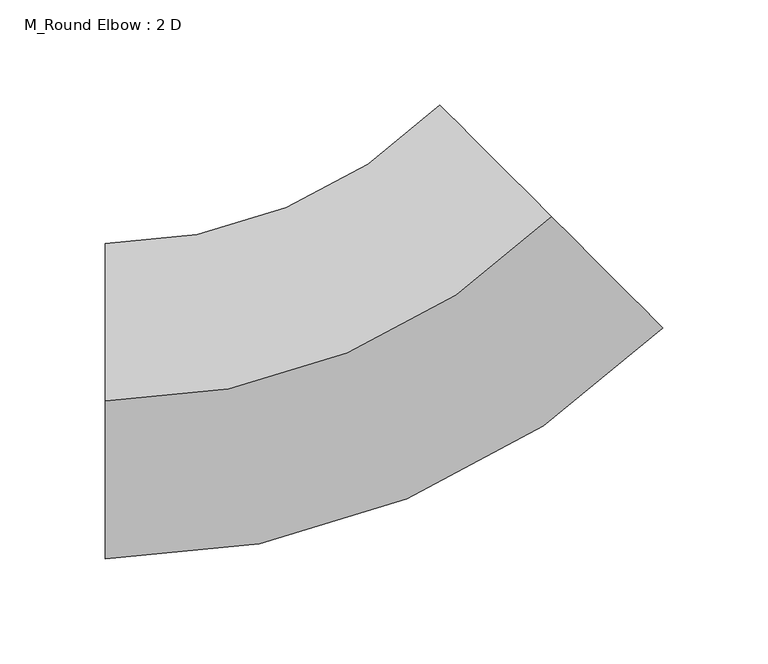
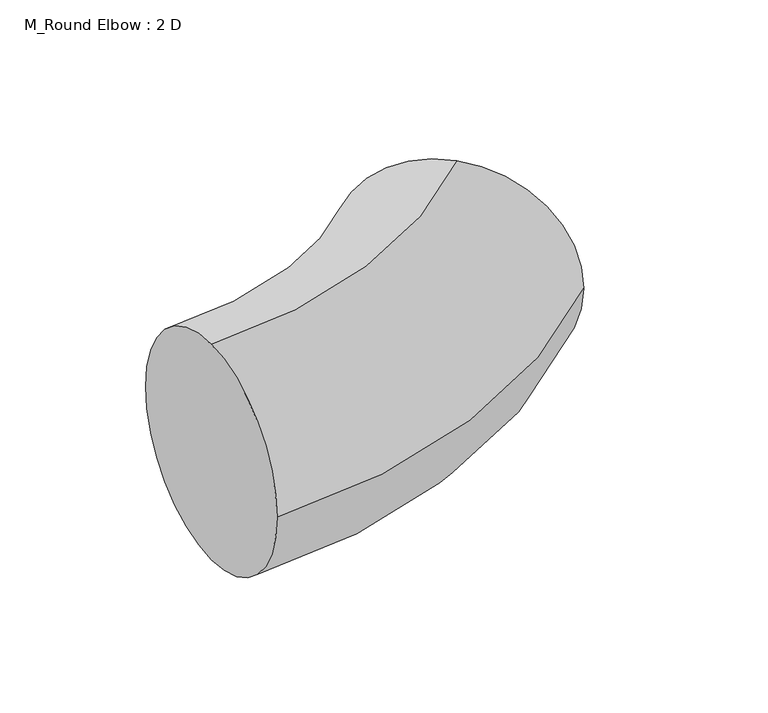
"""IFC4 building model written with IfcOpenShell, lengths in millimetres: duct fitting geometry, M_Round Elbow : 2 D."""

from ifc_helpers import new_model, si_unit, point, frame, origin, place, context, project, spatial, circle_curve, ellipse_curve, trimmed, source, transform, mapped, element, save
from ifc_brep_helpers import plane_surface, revolved_surface, advanced_brep


def m_round_elbow_2_d_8afeaf1c(model_context):
    return source(origin(), model_context, "Body", "AdvancedBrep", [
        advanced_brep(
        [(-124.2640687, 0.0, 75.0), (-124.2640687, 75.0, 0.0), (-124.2640687, 0.0, -75.0), (-124.2640687, -75.0, 0.0), (87.8679656, 87.8679656, 75.0), (140.9009742, 34.8349571, 0.0), (87.8679656, 87.8679656, -75.0), (34.8349571, 140.9009742, 0.0)],
        [
            (0, 1, circle_curve(frame((-124.2640687, 0.0, 0.0), z_axis=(-1.0, 0.0, 0.0), x_axis=(0.0, 1.0, 0.0)), 75.0)),
            (1, 2, circle_curve(frame((-124.2640687, 0.0, 0.0), z_axis=(-1.0, 0.0, 0.0), x_axis=(0.0, 1.0, 0.0)), 75.0)),
            (2, 3, circle_curve(frame((-124.2640687, 0.0, 0.0), z_axis=(-1.0, 0.0, 0.0), x_axis=(0.0, 1.0, 0.0)), 75.0)),
            (3, 0, circle_curve(frame((-124.2640687, 0.0, 0.0), z_axis=(-1.0, 0.0, 0.0), x_axis=(0.0, 1.0, 0.0)), 75.0)),
            (4, 5, circle_curve(frame((87.8679656, 87.8679656, 0.0), z_axis=(0.707106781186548, 0.707106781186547, 0.0), x_axis=(-0.707106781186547, 0.707106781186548, 0.0)), 75.0)),
            (5, 6, circle_curve(frame((87.8679656, 87.8679656, 0.0), z_axis=(0.707106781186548, 0.707106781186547, 0.0), x_axis=(-0.707106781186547, 0.707106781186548, 0.0)), 75.0)),
            (6, 7, circle_curve(frame((87.8679656, 87.8679656, 0.0), z_axis=(0.707106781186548, 0.707106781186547, 0.0), x_axis=(-0.707106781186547, 0.707106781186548, 0.0)), 75.0)),
            (7, 4, circle_curve(frame((87.8679656, 87.8679656, 0.0), z_axis=(0.707106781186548, 0.707106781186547, 0.0), x_axis=(-0.707106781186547, 0.707106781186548, 0.0)), 75.0)),
            (7, 1, circle_curve(frame((-124.2640687, 300.0, 0.0), z_axis=(0.0, 0.0, -1.0), x_axis=(0.0, -1.0, 0.0)), 225.0)),
            (0, 4, circle_curve(frame((-124.2640687, 300.0, 75.0), z_axis=(0.0, 0.0, 1.0), x_axis=(0.0, -1.0, 0.0)), 300.0)),
            (6, 2, circle_curve(frame((-124.2640687, 300.0, -75.0), z_axis=(0.0, 0.0, -1.0), x_axis=(0.0, -1.0, 0.0)), 300.0)),
            (5, 3, circle_curve(frame((-124.2640687, 300.0, 0.0), z_axis=(0.0, 0.0, -1.0), x_axis=(0.0, -1.0, 0.0)), 375.0)),
        ],
        [
            plane_surface(frame((-124.2640687, 0.0, 0.0), z_axis=(-1.0, 0.0, 0.0), x_axis=(0.0, 0.0, 1.0))),
            plane_surface(frame((87.8679656, 87.8679656, 0.0), z_axis=(0.707106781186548, 0.7071067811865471, 0.0), x_axis=(0.0, 0.0, 1.0))),
            revolved_surface(trimmed(ellipse_curve(frame((-124.2640687, 0.0, 0.0), z_axis=(-1.0, 0.0, 0.0), x_axis=(0.0, 1.0, 0.0)), 75.0, 75.0), [point((-124.2640687, 0.0, 75.0))], [point((-124.2640687, 75.0, 0.0))], True, "CARTESIAN"), (-124.2640687, 300.0, 0.0), (0.0, 0.0, 1.0)),
            revolved_surface(trimmed(ellipse_curve(frame((-124.2640687, 0.0, 0.0), z_axis=(-1.0, 0.0, 0.0), x_axis=(0.0, 1.0, 0.0)), 75.0, 75.0), [point((-124.2640687, 75.0, 0.0))], [point((-124.2640687, 0.0, -75.0))], True, "CARTESIAN"), (-124.2640687, 300.0, 0.0), (0.0, 0.0, 1.0)),
            revolved_surface(trimmed(ellipse_curve(frame((-124.2640687, 0.0, 0.0), z_axis=(-1.0, 0.0, 0.0), x_axis=(0.0, 1.0, 0.0)), 75.0, 75.0), [point((-124.2640687, 0.0, -75.0))], [point((-124.2640687, -75.0, 0.0))], True, "CARTESIAN"), (-124.2640687, 300.0, 0.0), (0.0, 0.0, 1.0)),
            revolved_surface(trimmed(ellipse_curve(frame((-124.2640687, 0.0, 0.0), z_axis=(-1.0, 0.0, 0.0), x_axis=(0.0, 1.0, 0.0)), 75.0, 75.0), [point((-124.2640687, -75.0, 0.0))], [point((-124.2640687, 0.0, 75.0))], True, "CARTESIAN"), (-124.2640687, 300.0, 0.0), (0.0, 0.0, 1.0)),
        ],
        [
            (0, [[1, 2, 3, 4]]),
            (1, [[5, 6, 7, 8]]),
            (2, [[9, -1, 10, -8]]),
            (3, [[11, -2, -9, -7]]),
            (4, [[12, -3, -11, -6]]),
            (5, [[-10, -4, -12, -5]]),
        ],
    ),
        advanced_brep(
        [(-124.2640687, 0.0, 75.0), (-124.2640687, 75.0, 0.0), (-124.2640687, 0.0, -75.0), (-124.2640687, -75.0, 0.0), (87.8679656, 87.8679656, 75.0), (140.9009742, 34.8349571, 0.0), (87.8679656, 87.8679656, -75.0), (34.8349571, 140.9009742, 0.0)],
        [
            (0, 1, circle_curve(frame((-124.2640687, 0.0, 0.0), z_axis=(-1.0, 0.0, 0.0), x_axis=(0.0, 1.0, 0.0)), 75.0)),
            (1, 2, circle_curve(frame((-124.2640687, 0.0, 0.0), z_axis=(-1.0, 0.0, 0.0), x_axis=(0.0, 1.0, 0.0)), 75.0)),
            (2, 3, circle_curve(frame((-124.2640687, 0.0, 0.0), z_axis=(-1.0, 0.0, 0.0), x_axis=(0.0, 1.0, 0.0)), 75.0)),
            (3, 0, circle_curve(frame((-124.2640687, 0.0, 0.0), z_axis=(-1.0, 0.0, 0.0), x_axis=(0.0, 1.0, 0.0)), 75.0)),
            (4, 5, circle_curve(frame((87.8679656, 87.8679656, 0.0), z_axis=(0.707106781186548, 0.707106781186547, 0.0), x_axis=(-0.707106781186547, 0.707106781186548, 0.0)), 75.0)),
            (5, 6, circle_curve(frame((87.8679656, 87.8679656, 0.0), z_axis=(0.707106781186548, 0.707106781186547, 0.0), x_axis=(-0.707106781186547, 0.707106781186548, 0.0)), 75.0)),
            (6, 7, circle_curve(frame((87.8679656, 87.8679656, 0.0), z_axis=(0.707106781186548, 0.707106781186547, 0.0), x_axis=(-0.707106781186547, 0.707106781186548, 0.0)), 75.0)),
            (7, 4, circle_curve(frame((87.8679656, 87.8679656, 0.0), z_axis=(0.707106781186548, 0.707106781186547, 0.0), x_axis=(-0.707106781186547, 0.707106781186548, 0.0)), 75.0)),
            (7, 1, circle_curve(frame((-124.2640687, 300.0, 0.0), z_axis=(0.0, 0.0, -1.0), x_axis=(0.0, -1.0, 0.0)), 225.0)),
            (0, 4, circle_curve(frame((-124.2640687, 300.0, 75.0), z_axis=(0.0, 0.0, 1.0), x_axis=(0.0, -1.0, 0.0)), 300.0)),
            (6, 2, circle_curve(frame((-124.2640687, 300.0, -75.0), z_axis=(0.0, 0.0, -1.0), x_axis=(0.0, -1.0, 0.0)), 300.0)),
            (5, 3, circle_curve(frame((-124.2640687, 300.0, 0.0), z_axis=(0.0, 0.0, -1.0), x_axis=(0.0, -1.0, 0.0)), 375.0)),
        ],
        [
            plane_surface(frame((-124.2640687, 0.0, 0.0), z_axis=(-1.0, 0.0, 0.0), x_axis=(0.0, 0.0, 1.0))),
            plane_surface(frame((87.8679656, 87.8679656, 0.0), z_axis=(0.707106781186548, 0.7071067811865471, 0.0), x_axis=(0.0, 0.0, 1.0))),
            revolved_surface(trimmed(ellipse_curve(frame((-124.2640687, 0.0, 0.0), z_axis=(-1.0, 0.0, 0.0), x_axis=(0.0, 1.0, 0.0)), 75.0, 75.0), [point((-124.2640687, 0.0, 75.0))], [point((-124.2640687, 75.0, 0.0))], True, "CARTESIAN"), (-124.2640687, 300.0, 0.0), (0.0, 0.0, 1.0)),
            revolved_surface(trimmed(ellipse_curve(frame((-124.2640687, 0.0, 0.0), z_axis=(-1.0, 0.0, 0.0), x_axis=(0.0, 1.0, 0.0)), 75.0, 75.0), [point((-124.2640687, 75.0, 0.0))], [point((-124.2640687, 0.0, -75.0))], True, "CARTESIAN"), (-124.2640687, 300.0, 0.0), (0.0, 0.0, 1.0)),
            revolved_surface(trimmed(ellipse_curve(frame((-124.2640687, 0.0, 0.0), z_axis=(-1.0, 0.0, 0.0), x_axis=(0.0, 1.0, 0.0)), 75.0, 75.0), [point((-124.2640687, 0.0, -75.0))], [point((-124.2640687, -75.0, 0.0))], True, "CARTESIAN"), (-124.2640687, 300.0, 0.0), (0.0, 0.0, 1.0)),
            revolved_surface(trimmed(ellipse_curve(frame((-124.2640687, 0.0, 0.0), z_axis=(-1.0, 0.0, 0.0), x_axis=(0.0, 1.0, 0.0)), 75.0, 75.0), [point((-124.2640687, -75.0, 0.0))], [point((-124.2640687, 0.0, 75.0))], True, "CARTESIAN"), (-124.2640687, 300.0, 0.0), (0.0, 0.0, 1.0)),
        ],
        [
            (0, [[1, 2, 3, 4]]),
            (1, [[5, 6, 7, 8]]),
            (2, [[9, -1, 10, -8]]),
            (3, [[11, -2, -9, -7]]),
            (4, [[12, -3, -11, -6]]),
            (5, [[-10, -4, -12, -5]]),
        ],
    ),
        advanced_brep(
        [(-124.2640687, 0.0, 75.0), (-124.2640687, 75.0, 0.0), (-124.2640687, 0.0, -75.0), (-124.2640687, -75.0, 0.0), (87.8679656, 87.8679656, 75.0), (140.9009742, 34.8349571, 0.0), (87.8679656, 87.8679656, -75.0), (34.8349571, 140.9009742, 0.0)],
        [
            (0, 1, circle_curve(frame((-124.2640687, 0.0, 0.0), z_axis=(-1.0, 0.0, 0.0), x_axis=(0.0, 1.0, 0.0)), 75.0)),
            (1, 2, circle_curve(frame((-124.2640687, 0.0, 0.0), z_axis=(-1.0, 0.0, 0.0), x_axis=(0.0, 1.0, 0.0)), 75.0)),
            (2, 3, circle_curve(frame((-124.2640687, 0.0, 0.0), z_axis=(-1.0, 0.0, 0.0), x_axis=(0.0, 1.0, 0.0)), 75.0)),
            (3, 0, circle_curve(frame((-124.2640687, 0.0, 0.0), z_axis=(-1.0, 0.0, 0.0), x_axis=(0.0, 1.0, 0.0)), 75.0)),
            (4, 5, circle_curve(frame((87.8679656, 87.8679656, 0.0), z_axis=(0.707106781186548, 0.707106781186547, 0.0), x_axis=(-0.707106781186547, 0.707106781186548, 0.0)), 75.0)),
            (5, 6, circle_curve(frame((87.8679656, 87.8679656, 0.0), z_axis=(0.707106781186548, 0.707106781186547, 0.0), x_axis=(-0.707106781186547, 0.707106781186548, 0.0)), 75.0)),
            (6, 7, circle_curve(frame((87.8679656, 87.8679656, 0.0), z_axis=(0.707106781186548, 0.707106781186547, 0.0), x_axis=(-0.707106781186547, 0.707106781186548, 0.0)), 75.0)),
            (7, 4, circle_curve(frame((87.8679656, 87.8679656, 0.0), z_axis=(0.707106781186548, 0.707106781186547, 0.0), x_axis=(-0.707106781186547, 0.707106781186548, 0.0)), 75.0)),
            (7, 1, circle_curve(frame((-124.2640687, 300.0, 0.0), z_axis=(0.0, 0.0, -1.0), x_axis=(0.0, -1.0, 0.0)), 225.0)),
            (0, 4, circle_curve(frame((-124.2640687, 300.0, 75.0), z_axis=(0.0, 0.0, 1.0), x_axis=(0.0, -1.0, 0.0)), 300.0)),
            (6, 2, circle_curve(frame((-124.2640687, 300.0, -75.0), z_axis=(0.0, 0.0, -1.0), x_axis=(0.0, -1.0, 0.0)), 300.0)),
            (5, 3, circle_curve(frame((-124.2640687, 300.0, 0.0), z_axis=(0.0, 0.0, -1.0), x_axis=(0.0, -1.0, 0.0)), 375.0)),
        ],
        [
            plane_surface(frame((-124.2640687, 0.0, 0.0), z_axis=(-1.0, 0.0, 0.0), x_axis=(0.0, 0.0, 1.0))),
            plane_surface(frame((87.8679656, 87.8679656, 0.0), z_axis=(0.707106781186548, 0.7071067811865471, 0.0), x_axis=(0.0, 0.0, 1.0))),
            revolved_surface(trimmed(ellipse_curve(frame((-124.2640687, 0.0, 0.0), z_axis=(-1.0, 0.0, 0.0), x_axis=(0.0, 1.0, 0.0)), 75.0, 75.0), [point((-124.2640687, 0.0, 75.0))], [point((-124.2640687, 75.0, 0.0))], True, "CARTESIAN"), (-124.2640687, 300.0, 0.0), (0.0, 0.0, 1.0)),
            revolved_surface(trimmed(ellipse_curve(frame((-124.2640687, 0.0, 0.0), z_axis=(-1.0, 0.0, 0.0), x_axis=(0.0, 1.0, 0.0)), 75.0, 75.0), [point((-124.2640687, 75.0, 0.0))], [point((-124.2640687, 0.0, -75.0))], True, "CARTESIAN"), (-124.2640687, 300.0, 0.0), (0.0, 0.0, 1.0)),
            revolved_surface(trimmed(ellipse_curve(frame((-124.2640687, 0.0, 0.0), z_axis=(-1.0, 0.0, 0.0), x_axis=(0.0, 1.0, 0.0)), 75.0, 75.0), [point((-124.2640687, 0.0, -75.0))], [point((-124.2640687, -75.0, 0.0))], True, "CARTESIAN"), (-124.2640687, 300.0, 0.0), (0.0, 0.0, 1.0)),
            revolved_surface(trimmed(ellipse_curve(frame((-124.2640687, 0.0, 0.0), z_axis=(-1.0, 0.0, 0.0), x_axis=(0.0, 1.0, 0.0)), 75.0, 75.0), [point((-124.2640687, -75.0, 0.0))], [point((-124.2640687, 0.0, 75.0))], True, "CARTESIAN"), (-124.2640687, 300.0, 0.0), (0.0, 0.0, 1.0)),
        ],
        [
            (0, [[1, 2, 3, 4]]),
            (1, [[5, 6, 7, 8]]),
            (2, [[9, -1, 10, -8]]),
            (3, [[11, -2, -9, -7]]),
            (4, [[12, -3, -11, -6]]),
            (5, [[-10, -4, -12, -5]]),
        ],
    ),
    ])


if __name__ == "__main__":
    model = new_model("IFC4")
    model_context = context("Model", 3, world=origin())
    ifc_project = project(units=[si_unit("LENGTHUNIT", "METRE", prefix="MILLI")], contexts=[model_context])
    site = spatial("IfcSite", under=ifc_project)
    building = spatial("IfcBuilding", under=site)
    placement = place(None, origin())
    m_round_elbow_2_d_shape = m_round_elbow_2_d_8afeaf1c(model_context)
    element("IfcDuctFitting", 1, ObjectType="M_Round Elbow : 2 D", at=placement, inside=building, context=model_context, shape_type="MappedRepresentation", body=[
        mapped(m_round_elbow_2_d_shape, transform((0.0, 0.0, 0.0), x_axis=(1.0, 0.0, 0.0), y_axis=(0.0, 1.0, 0.0), z_axis=(0.0, 0.0, 1.0))),
    ])
    save(model, "model.ifc")
